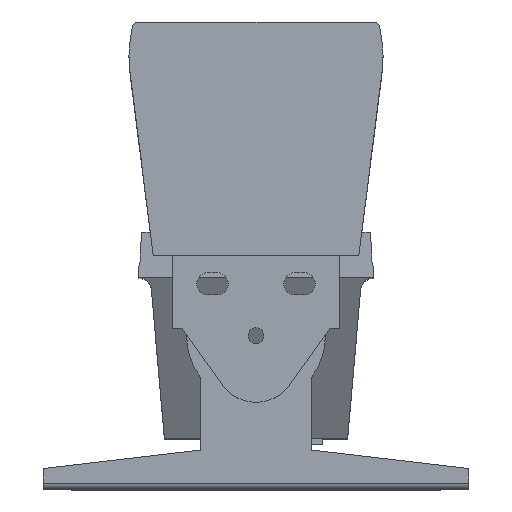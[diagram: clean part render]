
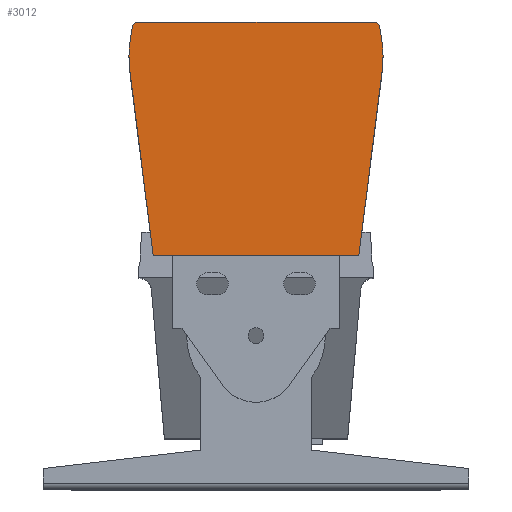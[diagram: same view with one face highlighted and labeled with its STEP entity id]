
A CAD part, top view. The second image highlights one B-rep face of the part: STEP entity #3012.
In plain terms, the highlighted planar face has unit normal (0, 0, 1).
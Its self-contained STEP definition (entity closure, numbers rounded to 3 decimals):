
#15=B_SPLINE_CURVE_WITH_KNOTS('',3,(#5145,#5146,#5147,#5148,#5149,#5150,
#5151,#5152,#5153,#5154,#5155,#5156),.UNSPECIFIED.,.F.,.F.,(4,2,2,2,2,4),
(0.,0.122,0.232,0.331,0.431,
0.443),.UNSPECIFIED.);
#16=B_SPLINE_CURVE_WITH_KNOTS('',3,(#5187,#5188,#5189,#5190,#5191,#5192,
#5193,#5194,#5195,#5196,#5197,#5198),.UNSPECIFIED.,.F.,.F.,(4,2,2,2,2,4),
(-0.443,-0.431,-0.331,-0.232,
-0.122,0.),.UNSPECIFIED.);
#206=PLANE('',#3365);
#354=FACE_OUTER_BOUND('',#554,.T.);
#554=EDGE_LOOP('',(#2801,#2802,#2803,#2804,#2805,#2806,#2807,#2808,#2809,
#2810));
#695=LINE('',#4771,#979);
#787=LINE('',#4988,#1071);
#804=LINE('',#5020,#1088);
#835=LINE('',#5160,#1119);
#979=VECTOR('',#3913,10.);
#1071=VECTOR('',#4121,10.);
#1088=VECTOR('',#4142,10.);
#1119=VECTOR('',#4227,10.);
#1249=CIRCLE('',#3357,59.69);
#1250=CIRCLE('',#3359,74.662);
#1251=CIRCLE('',#3362,74.662);
#1252=CIRCLE('',#3364,59.69);
#1432=VERTEX_POINT('',#4767);
#1434=VERTEX_POINT('',#4770);
#1501=VERTEX_POINT('',#4986);
#1514=VERTEX_POINT('',#5019);
#1533=VERTEX_POINT('',#5113);
#1534=VERTEX_POINT('',#5117);
#1535=VERTEX_POINT('',#5144);
#1536=VERTEX_POINT('',#5159);
#1537=VERTEX_POINT('',#5186);
#1538=VERTEX_POINT('',#5201);
#1790=EDGE_CURVE('',#1434,#1432,#695,.T.);
#1897=EDGE_CURVE('',#1432,#1501,#787,.T.);
#1914=EDGE_CURVE('',#1514,#1434,#804,.T.);
#1950=EDGE_CURVE('',#1533,#1514,#1249,.T.);
#1952=EDGE_CURVE('',#1534,#1533,#1250,.T.);
#1954=EDGE_CURVE('',#1535,#1534,#15,.T.);
#1956=EDGE_CURVE('',#1536,#1535,#835,.T.);
#1958=EDGE_CURVE('',#1537,#1536,#16,.T.);
#1960=EDGE_CURVE('',#1538,#1537,#1251,.T.);
#1962=EDGE_CURVE('',#1501,#1538,#1252,.T.);
#2801=ORIENTED_EDGE('',*,*,#1914,.T.);
#2802=ORIENTED_EDGE('',*,*,#1790,.T.);
#2803=ORIENTED_EDGE('',*,*,#1897,.T.);
#2804=ORIENTED_EDGE('',*,*,#1962,.T.);
#2805=ORIENTED_EDGE('',*,*,#1960,.T.);
#2806=ORIENTED_EDGE('',*,*,#1958,.T.);
#2807=ORIENTED_EDGE('',*,*,#1956,.T.);
#2808=ORIENTED_EDGE('',*,*,#1954,.T.);
#2809=ORIENTED_EDGE('',*,*,#1952,.T.);
#2810=ORIENTED_EDGE('',*,*,#1950,.T.);
#3012=ADVANCED_FACE('',(#354),#206,.T.);
#3357=AXIS2_PLACEMENT_3D('',#5114,#4216,#4217);
#3359=AXIS2_PLACEMENT_3D('',#5118,#4221,#4222);
#3362=AXIS2_PLACEMENT_3D('',#5202,#4232,#4233);
#3364=AXIS2_PLACEMENT_3D('',#5205,#4237,#4238);
#3365=AXIS2_PLACEMENT_3D('',#5206,#4239,#4240);
#3913=DIRECTION('',(1.,0.,0.));
#4121=DIRECTION('',(0.126,0.992,0.));
#4142=DIRECTION('',(0.126,-0.992,0.));
#4216=DIRECTION('center_axis',(0.,0.,1.));
#4217=DIRECTION('ref_axis',(-0.995,0.103,0.));
#4221=DIRECTION('center_axis',(0.,0.,1.));
#4222=DIRECTION('ref_axis',(-0.974,0.228,0.));
#4227=DIRECTION('',(-1.,0.,0.));
#4232=DIRECTION('center_axis',(0.,0.,1.));
#4233=DIRECTION('ref_axis',(0.996,0.089,0.));
#4237=DIRECTION('center_axis',(0.,0.,1.));
#4238=DIRECTION('ref_axis',(0.989,-0.15,0.));
#4239=DIRECTION('center_axis',(0.,0.,1.));
#4240=DIRECTION('ref_axis',(1.,0.,0.));
#4767=CARTESIAN_POINT('',(55.541,175.411,186.6));
#4770=CARTESIAN_POINT('',(-55.541,175.411,186.6));
#4771=CARTESIAN_POINT('',(-52.866,175.411,186.6));
#4986=CARTESIAN_POINT('',(68.,273.437,186.6));
#4988=CARTESIAN_POINT('',(55.872,178.019,186.6));
#5019=CARTESIAN_POINT('',(-68.,273.437,186.6));
#5020=CARTESIAN_POINT('',(-55.872,178.019,186.6));
#5113=CARTESIAN_POINT('',(-68.36,288.52,186.6));
#5114=CARTESIAN_POINT('Origin',(-8.986,282.391,186.6));
#5117=CARTESIAN_POINT('',(-66.695,298.886,186.6));
#5118=CARTESIAN_POINT('Origin',(6.008,281.895,186.6));
#5144=CARTESIAN_POINT('',(-63.492,301.45,186.6));
#5145=CARTESIAN_POINT('Ctrl Pts',(-63.492,301.45,186.6));
#5146=CARTESIAN_POINT('Ctrl Pts',(-63.898,301.45,186.6));
#5147=CARTESIAN_POINT('Ctrl Pts',(-64.311,301.382,186.6));
#5148=CARTESIAN_POINT('Ctrl Pts',(-65.036,301.114,186.6));
#5149=CARTESIAN_POINT('Ctrl Pts',(-65.364,300.923,186.6));
#5150=CARTESIAN_POINT('Ctrl Pts',(-65.893,300.469,186.6));
#5151=CARTESIAN_POINT('Ctrl Pts',(-66.11,300.21,186.6));
#5152=CARTESIAN_POINT('Ctrl Pts',(-66.453,299.644,186.6));
#5153=CARTESIAN_POINT('Ctrl Pts',(-66.582,299.33,186.6));
#5154=CARTESIAN_POINT('Ctrl Pts',(-66.676,298.968,186.6));
#5155=CARTESIAN_POINT('Ctrl Pts',(-66.686,298.927,186.6));
#5156=CARTESIAN_POINT('Ctrl Pts',(-66.695,298.886,186.6));
#5159=CARTESIAN_POINT('',(63.492,301.45,186.6));
#5160=CARTESIAN_POINT('',(63.492,301.45,186.6));
#5186=CARTESIAN_POINT('',(66.695,298.886,186.6));
#5187=CARTESIAN_POINT('Ctrl Pts',(66.695,298.886,186.6));
#5188=CARTESIAN_POINT('Ctrl Pts',(66.686,298.927,186.6));
#5189=CARTESIAN_POINT('Ctrl Pts',(66.676,298.968,186.6));
#5190=CARTESIAN_POINT('Ctrl Pts',(66.582,299.33,186.6));
#5191=CARTESIAN_POINT('Ctrl Pts',(66.453,299.644,186.6));
#5192=CARTESIAN_POINT('Ctrl Pts',(66.11,300.21,186.6));
#5193=CARTESIAN_POINT('Ctrl Pts',(65.893,300.469,186.6));
#5194=CARTESIAN_POINT('Ctrl Pts',(65.364,300.923,186.6));
#5195=CARTESIAN_POINT('Ctrl Pts',(65.036,301.114,186.6));
#5196=CARTESIAN_POINT('Ctrl Pts',(64.311,301.382,186.6));
#5197=CARTESIAN_POINT('Ctrl Pts',(63.898,301.45,186.6));
#5198=CARTESIAN_POINT('Ctrl Pts',(63.492,301.45,186.6));
#5201=CARTESIAN_POINT('',(68.36,288.52,186.6));
#5202=CARTESIAN_POINT('Origin',(-6.008,281.895,186.6));
#5205=CARTESIAN_POINT('Origin',(8.986,282.391,186.6));
#5206=CARTESIAN_POINT('Origin',(0.,238.431,186.6));
